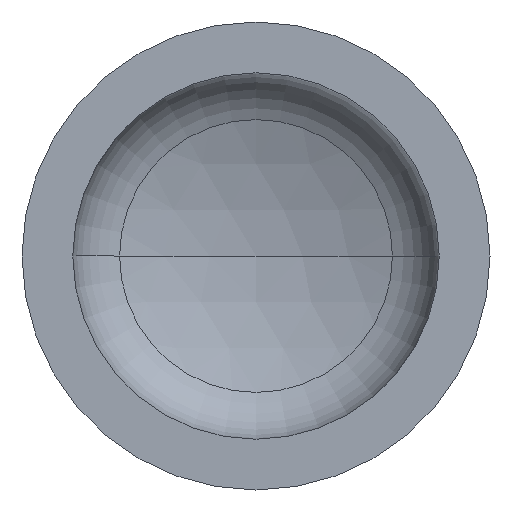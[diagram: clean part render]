
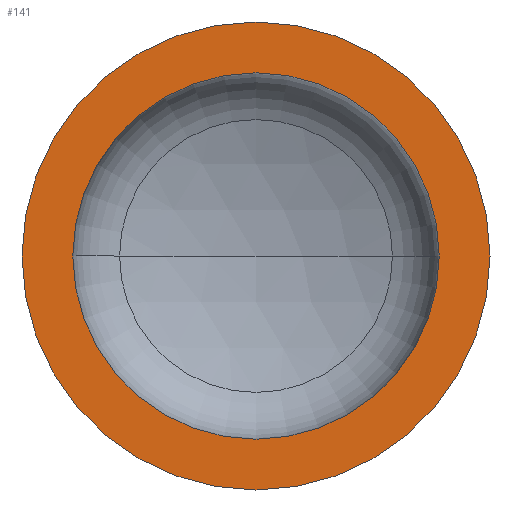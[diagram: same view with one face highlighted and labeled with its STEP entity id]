
A CAD part, front view. The second image highlights one B-rep face of the part: STEP entity #141.
In plain terms, the highlighted planar face has unit normal (0, -1, 0).
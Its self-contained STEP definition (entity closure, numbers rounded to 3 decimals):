
#10 = AXIS2_PLACEMENT_3D ( 'NONE', #378, #168, #129 ) ;
#13 = DIRECTION ( 'NONE',  ( 0., -1., 0. ) ) ;
#17 = ORIENTED_EDGE ( 'NONE', *, *, #323, .F. ) ;
#23 = CIRCLE ( 'NONE', #57, 350. ) ;
#27 = VERTEX_POINT ( 'NONE', #286 ) ;
#31 = AXIS2_PLACEMENT_3D ( 'NONE', #223, #347, #203 ) ;
#37 = VERTEX_POINT ( 'NONE', #260 ) ;
#53 = VERTEX_POINT ( 'NONE', #241 ) ;
#56 = AXIS2_PLACEMENT_3D ( 'NONE', #268, #362, #363 ) ;
#57 = AXIS2_PLACEMENT_3D ( 'NONE', #342, #339, #344 ) ;
#66 = ORIENTED_EDGE ( 'NONE', *, *, #81, .F. ) ;
#80 = EDGE_CURVE ( 'NONE', #143, #27, #23, .T. ) ;
#81 = EDGE_CURVE ( 'NONE', #37, #53, #361, .T. ) ;
#95 = EDGE_LOOP ( 'NONE', ( #66, #17 ) ) ;
#118 = ORIENTED_EDGE ( 'NONE', *, *, #80, .T. ) ;
#129 = DIRECTION ( 'NONE',  ( 1., 0., 0. ) ) ;
#141 = ADVANCED_FACE ( 'NONE', ( #156, #404 ), #321, .F. ) ;
#143 = VERTEX_POINT ( 'NONE', #291 ) ;
#156 = FACE_BOUND ( 'NONE', #95, .T. ) ;
#161 = ORIENTED_EDGE ( 'NONE', *, *, #364, .T. ) ;
#166 = EDGE_LOOP ( 'NONE', ( #161, #118 ) ) ;
#168 = DIRECTION ( 'NONE',  ( 0., -1., 0. ) ) ;
#203 = DIRECTION ( 'NONE',  ( -1., 0., 0. ) ) ;
#223 = CARTESIAN_POINT ( 'NONE',  ( -350., 0., 0. ) ) ;
#241 = CARTESIAN_POINT ( 'NONE',  ( -274., 0., 0. ) ) ;
#257 = CARTESIAN_POINT ( 'NONE',  ( 0., 0., 0. ) ) ;
#260 = CARTESIAN_POINT ( 'NONE',  ( 274., 0., 0. ) ) ;
#268 = CARTESIAN_POINT ( 'NONE',  ( 0., 0., 0. ) ) ;
#286 = CARTESIAN_POINT ( 'NONE',  ( 350., 0., 0. ) ) ;
#291 = CARTESIAN_POINT ( 'NONE',  ( -350., 0., 0. ) ) ;
#311 = CIRCLE ( 'NONE', #331, 350. ) ;
#321 = PLANE ( 'NONE',  #31 ) ;
#323 = EDGE_CURVE ( 'NONE', #53, #37, #330, .T. ) ;
#327 = DIRECTION ( 'NONE',  ( 1., 0., 0. ) ) ;
#330 = CIRCLE ( 'NONE', #10, 274. ) ;
#331 = AXIS2_PLACEMENT_3D ( 'NONE', #257, #13, #327 ) ;
#339 = DIRECTION ( 'NONE',  ( 0., -1., 0. ) ) ;
#342 = CARTESIAN_POINT ( 'NONE',  ( 0., 0., 0. ) ) ;
#344 = DIRECTION ( 'NONE',  ( 1., 0., 0. ) ) ;
#347 = DIRECTION ( 'NONE',  ( 0., 1., 0. ) ) ;
#361 = CIRCLE ( 'NONE', #56, 274. ) ;
#362 = DIRECTION ( 'NONE',  ( 0., -1., 0. ) ) ;
#363 = DIRECTION ( 'NONE',  ( 1., 0., 0. ) ) ;
#364 = EDGE_CURVE ( 'NONE', #27, #143, #311, .T. ) ;
#378 = CARTESIAN_POINT ( 'NONE',  ( 0., 0., 0. ) ) ;
#404 = FACE_OUTER_BOUND ( 'NONE', #166, .T. ) ;
